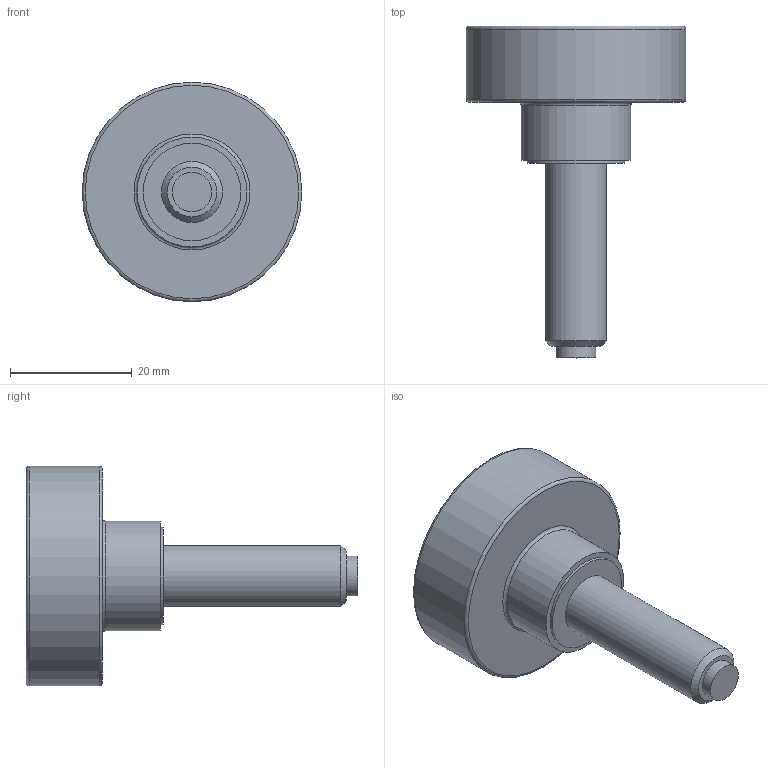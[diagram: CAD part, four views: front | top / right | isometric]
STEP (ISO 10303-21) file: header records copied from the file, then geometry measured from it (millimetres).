
FILE_DESCRIPTION( ( 'STEP AP203' ), '1' );
FILE_NAME( 'C:/Temp/Ganter_Step_05_03_2020/data/2_2/gn_421_10/Hollow knurled knob, with tip GN 421.10-M10-30-KU.stp', '2020-03-05T12:25:37', ( 'License CC BY-ND 4.0' ), ( 'CADENAS' ), ' ', 'PARTsolutions', ' ' );
FILE_SCHEMA( ( 'CONFIG_CONTROL_DESIGN' ) );
Length unit declared in the file: millimetre
Products named in the file (1): _Hollow knurled knob, with tip GN 421.10-M10-30-KU
Bounding box: 36 x 54.4 x 36 mm (x, y, z)
Volume: 11670.4 mm3; surface area: 5817.4 mm2
Topology: 1 solids, 1 shells, 19 faces, 30 edges, 19 vertices
Faces by surface type: plane 8, cylinder 7, torus 3, cone 1
Full cylindrical faces by diameter (mm): 6.5 x1, 10 x1, 14 x1, 16 x1, 18 x1, 31 x1, 36 x1
Entity records: 418 total; most frequent: DIRECTION 76, CARTESIAN_POINT 56, AXIS2_PLACEMENT_3D 38, EDGE_LOOP 36, ORIENTED_EDGE 36, FACE_OUTER_BOUND 29, ADVANCED_FACE 19, EDGE_CURVE 18
